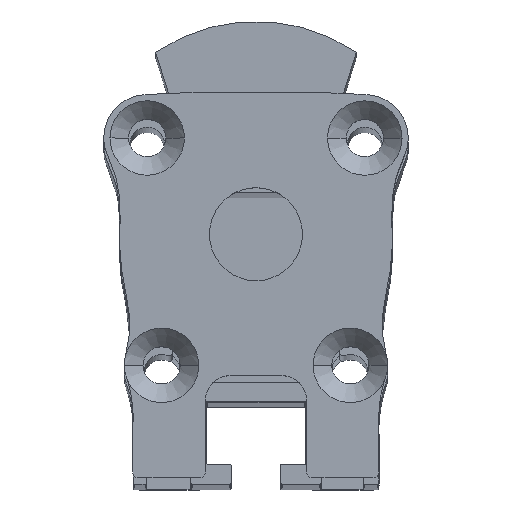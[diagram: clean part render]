
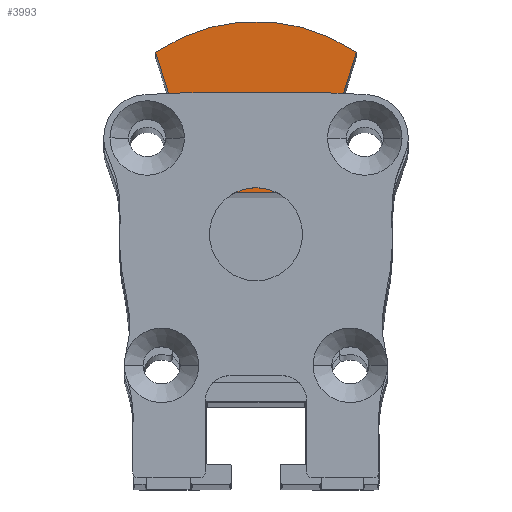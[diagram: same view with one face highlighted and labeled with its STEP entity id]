
A CAD part, top view. The second image highlights one B-rep face of the part: STEP entity #3993.
In plain terms, the highlighted planar face has unit normal (0, 0, 1).
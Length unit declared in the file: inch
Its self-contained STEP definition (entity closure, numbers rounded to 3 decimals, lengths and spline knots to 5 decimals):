
#3993=ADVANCED_FACE('',(#7809),#7810,.T.);
#4001=EDGE_CURVE('',#7813,#7819,#7822,.T.);
#4007=EDGE_CURVE('',#7827,#7819,#7830,.F.);
#4029=EDGE_CURVE('',#7861,#7862,#7863,.F.);
#4035=EDGE_CURVE('',#7869,#7870,#7871,.F.);
#4041=EDGE_CURVE('',#7870,#7861,#7877,.F.);
#4043=EDGE_CURVE('',#7869,#7879,#7880,.F.);
#4047=EDGE_CURVE('',#7813,#7862,#7884,.F.);
#4049=EDGE_CURVE('',#7886,#7887,#7888,.F.);
#4055=EDGE_CURVE('',#7827,#7894,#7895,.F.);
#4059=EDGE_CURVE('',#7894,#7886,#7899,.F.);
#4063=EDGE_CURVE('',#7901,#7887,#7904,.F.);
#4065=EDGE_CURVE('',#7879,#7901,#7906,.F.);
#7809=FACE_OUTER_BOUND('',#17831,.T.);
#7810=PLANE('',#17832);
#7813=VERTEX_POINT('',#17836);
#7819=VERTEX_POINT('',#17846);
#7822=LINE('',#17851,#17852);
#7827=VERTEX_POINT('',#17860);
#7830=LINE('',#17865,#17866);
#7861=VERTEX_POINT('',#17917);
#7862=VERTEX_POINT('',#17918);
#7863=LINE('',#17919,#17920);
#7869=VERTEX_POINT('',#17931);
#7870=VERTEX_POINT('',#17932);
#7871=LINE('',#17933,#17934);
#7877=LINE('',#17945,#17946);
#7879=VERTEX_POINT('',#17949);
#7880=LINE('',#17950,#17951);
#7884=LINE('',#17958,#17959);
#7886=VERTEX_POINT('',#17962);
#7887=VERTEX_POINT('',#17963);
#7888=LINE('',#17964,#17965);
#7894=VERTEX_POINT('',#17976);
#7895=LINE('',#17977,#17978);
#7899=LINE('',#17985,#17986);
#7901=VERTEX_POINT('',#17989);
#7904=LINE('',#17994,#17995);
#7906=CIRCLE('',#17998,0.56299);
#17831=EDGE_LOOP('',(#23540,#23541,#23542,#23543,#23544,#23545,#23546,#23547,#23548,#23549,#23550,#23551));
#17832=AXIS2_PLACEMENT_3D('',#23552,#23553,#23554);
#17836=CARTESIAN_POINT('',(-0.17932,0.15296,-1.38538));
#17846=CARTESIAN_POINT('',(0.17932,0.15296,-1.38538));
#17851=CARTESIAN_POINT('',(0.,0.15296,-1.38538));
#17852=VECTOR('',#23558,1.0);
#17860=CARTESIAN_POINT('',(0.26301,0.4208,-1.38538));
#17865=CARTESIAN_POINT('',(0.19145,0.19179,-1.38538));
#17866=VECTOR('',#23561,1.0);
#17917=CARTESIAN_POINT('',(-0.21005,0.4208,-1.38538));
#17918=CARTESIAN_POINT('',(-0.26301,0.4208,-1.38538));
#17919=CARTESIAN_POINT('',(-0.12298,0.4208,-1.38538));
#17920=VECTOR('',#23574,1.0);
#17931=CARTESIAN_POINT('',(-0.27532,0.46017,-1.38538));
#17932=CARTESIAN_POINT('',(-0.21005,0.46017,-1.38538));
#17933=CARTESIAN_POINT('',(-0.12298,0.46017,-1.38538));
#17934=VECTOR('',#23577,1.0);
#17945=CARTESIAN_POINT('',(-0.21005,0.35333,-1.38538));
#17946=VECTOR('',#23580,1.0);
#17949=CARTESIAN_POINT('',(-0.31832,0.59777,-1.38538));
#17950=CARTESIAN_POINT('',(-0.19145,0.19179,-1.38538));
#17951=VECTOR('',#23581,1.0);
#17958=CARTESIAN_POINT('',(-0.19145,0.19179,-1.38538));
#17959=VECTOR('',#23583,1.0);
#17962=CARTESIAN_POINT('',(0.20856,0.46017,-1.38538));
#17963=CARTESIAN_POINT('',(0.27532,0.46017,-1.38538));
#17964=CARTESIAN_POINT('',(0.12223,0.46017,-1.38538));
#17965=VECTOR('',#23584,1.0);
#17976=CARTESIAN_POINT('',(0.20856,0.4208,-1.38538));
#17977=CARTESIAN_POINT('',(0.12223,0.4208,-1.38538));
#17978=VECTOR('',#23587,1.0);
#17985=CARTESIAN_POINT('',(0.20856,0.35333,-1.38538));
#17986=VECTOR('',#23589,1.0);
#17989=CARTESIAN_POINT('',(0.31832,0.59777,-1.38538));
#17994=CARTESIAN_POINT('',(0.19145,0.19179,-1.38538));
#17995=VECTOR('',#23591,1.0);
#17998=AXIS2_PLACEMENT_3D('',#23592,#23593,#23594);
#23540=ORIENTED_EDGE('',*,*,#4001,.T.);
#23541=ORIENTED_EDGE('',*,*,#4007,.F.);
#23542=ORIENTED_EDGE('',*,*,#4055,.T.);
#23543=ORIENTED_EDGE('',*,*,#4059,.T.);
#23544=ORIENTED_EDGE('',*,*,#4049,.T.);
#23545=ORIENTED_EDGE('',*,*,#4063,.F.);
#23546=ORIENTED_EDGE('',*,*,#4065,.F.);
#23547=ORIENTED_EDGE('',*,*,#4043,.F.);
#23548=ORIENTED_EDGE('',*,*,#4035,.T.);
#23549=ORIENTED_EDGE('',*,*,#4041,.T.);
#23550=ORIENTED_EDGE('',*,*,#4029,.T.);
#23551=ORIENTED_EDGE('',*,*,#4047,.F.);
#23552=CARTESIAN_POINT('',(0.,0.26619,-1.38538));
#23553=DIRECTION('',(0.,0.,1.0));
#23554=DIRECTION('',(1.0,0.0,0.));
#23558=DIRECTION('',(1.0,0.0,0.));
#23561=DIRECTION('',(0.298,0.954,0.));
#23574=DIRECTION('',(1.0,0.0,0.));
#23577=DIRECTION('',(-1.0,0.0,0.));
#23580=DIRECTION('',(-0.0,1.0,0.));
#23581=DIRECTION('',(0.298,-0.954,0.));
#23583=DIRECTION('',(0.298,-0.954,0.));
#23584=DIRECTION('',(-1.0,0.0,0.));
#23587=DIRECTION('',(1.0,0.0,0.));
#23589=DIRECTION('',(-0.0,-1.0,0.));
#23591=DIRECTION('',(0.298,0.954,0.));
#23592=CARTESIAN_POINT('',(0.,0.13341,-1.38538));
#23593=DIRECTION('',(0.,0.,1.0));
#23594=DIRECTION('',(1.0,0.,0.));
